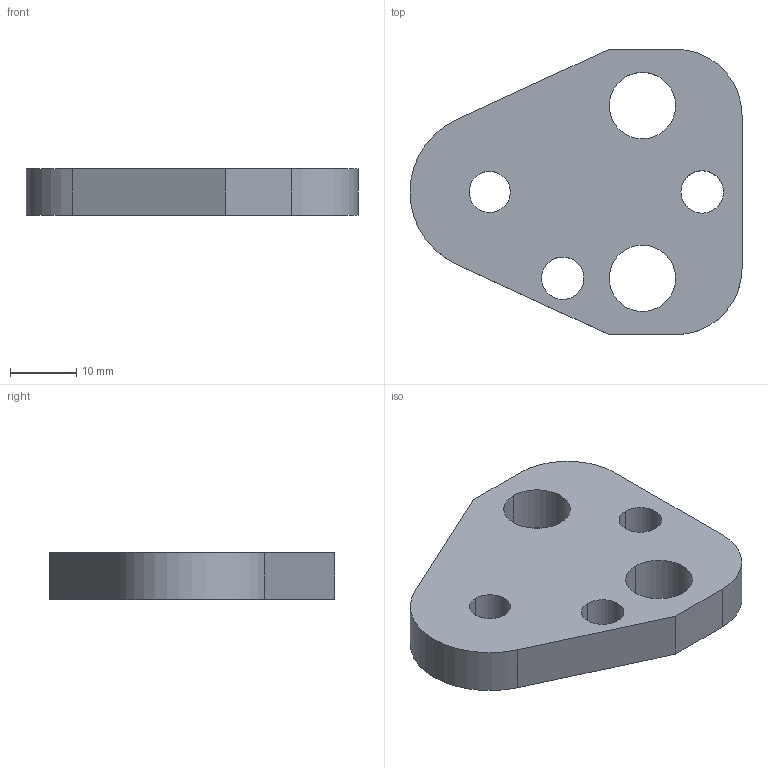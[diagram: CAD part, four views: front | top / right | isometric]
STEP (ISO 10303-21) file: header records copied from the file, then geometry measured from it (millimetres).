
FILE_DESCRIPTION(/* description */ (''),/* implementation_level */ '2;1');
FILE_NAME(/* name */ '3d_bpc13-7_03429_r00.stp',/* time_stamp */ '2011-01-10T14:17:11+09:00',/* author */ ('MISUMI'),/* organization */ (''),/* preprocessor_version */ 'ST-DEVELOPER v11',/* originating_system */ 'UGS - NX 5.0',/* authorisation */ '');
FILE_SCHEMA (('CONFIG_CONTROL_DESIGN'));
Length unit declared in the file: millimetre
Products named in the file (1): 3d_bpc13-7_03429_r00
Bounding box: 50 x 43 x 7 mm (x, y, z)
Volume: 9944.4 mm3; surface area: 4766 mm2
Topology: 1 solids, 1 shells, 20 faces, 54 edges, 36 vertices
Faces by surface type: cylinder 13, plane 7
Entity records: 750 total; most frequent: DIRECTION 122, CARTESIAN_POINT 111, ORIENTED_EDGE 108, EDGE_CURVE 54, AXIS2_PLACEMENT_3D 47, VERTEX_POINT 36, EDGE_LOOP 30, LINE 28
